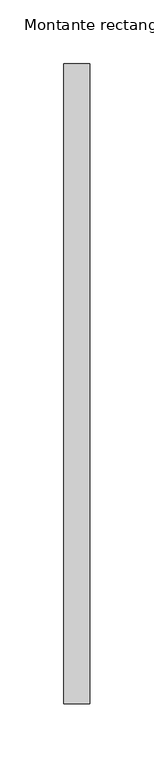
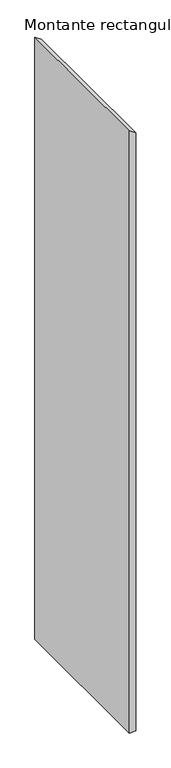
"""IFC4 building model written with IfcOpenShell, lengths in millimetres: member geometry, Montante rectangular : CIRCLES."""

from ifc_helpers import new_model, si_unit, frame, origin, place, context, project, spatial, polyline, outline, extrude, source, transform, mapped, element, save


def montante_rectangular_2129d922(model_context):
    return source(origin(), model_context, "Body", "SweptSolid", [
        extrude(outline(polyline([(-30.7665059, 10.0), (-17.3736488, -10.0), (-1962.1283322, -10.0), (-1962.1283322, 10.0), (-30.7665059, 10.0)])), frame((0.0, -250.0, 0.0), z_axis=(0.0, 1.0, 0.0), x_axis=(0.0, 0.0, 1.0)), (0.0, 0.0, 1.0), 500.0),
    ])


if __name__ == "__main__":
    model = new_model("IFC4")
    model_context = context("Model", 3, world=origin())
    ifc_project = project(units=[si_unit("LENGTHUNIT", "METRE", prefix="MILLI")], contexts=[model_context])
    site = spatial("IfcSite", under=ifc_project)
    building = spatial("IfcBuilding", under=site)
    placement = place(None, origin())
    montante_rectangular_shape = montante_rectangular_2129d922(model_context)
    element("IfcMember", 1, ObjectType="Montante rectangular : CIRCLES", at=placement, inside=building, context=model_context, shape_type="MappedRepresentation", body=[
        mapped(montante_rectangular_shape, transform((0.0, 0.0, 0.0), x_axis=(1.0, 0.0, 0.0), y_axis=(0.0, 1.0, 0.0), z_axis=(0.0, 0.0, 1.0))),
    ])
    save(model, "model.ifc")
